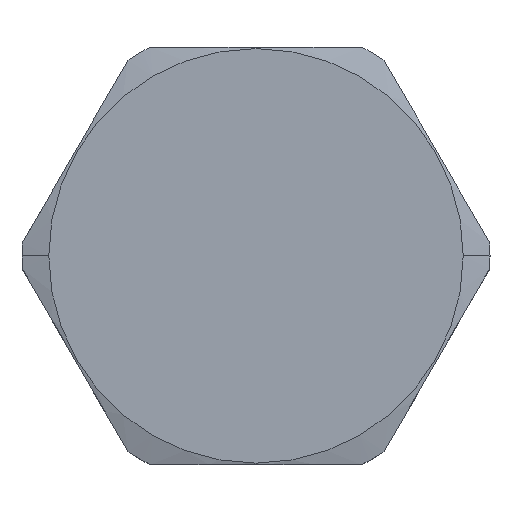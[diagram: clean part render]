
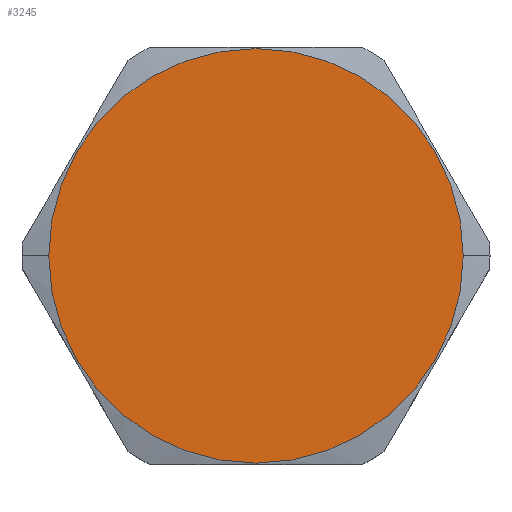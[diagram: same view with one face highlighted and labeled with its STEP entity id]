
A CAD part, top view. The second image highlights one B-rep face of the part: STEP entity #3245.
In plain terms, the highlighted planar face has unit normal (0, 0, 1).
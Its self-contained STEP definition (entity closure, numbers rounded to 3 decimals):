
#1237=CARTESIAN_POINT('',(0.,0.,9.449));
#1238=DIRECTION('',(0.,0.,-1.));
#1239=DIRECTION('',(-1.,0.,0.));
#1240=AXIS2_PLACEMENT_3D('',#1237,#1238,#1239);
#1242=CARTESIAN_POINT('',(0.,0.,9.449));
#1243=DIRECTION('',(0.,0.,-1.));
#1244=DIRECTION('',(1.,0.,0.));
#1245=AXIS2_PLACEMENT_3D('',#1242,#1243,#1244);
#1543=CARTESIAN_POINT('',(-11.811,0.,9.449));
#1544=VERTEX_POINT('',#1543);
#1545=CARTESIAN_POINT('',(11.811,0.,9.449));
#1546=VERTEX_POINT('',#1545);
#3236=CARTESIAN_POINT('',(0.,0.,9.449));
#3237=DIRECTION('',(0.,0.,-1.));
#3238=DIRECTION('',(-1.,0.,0.));
#3239=AXIS2_PLACEMENT_3D('',#3236,#3237,#3238);
#3240=PLANE('',#3239);
#3241=ORIENTED_EDGE('',*,*,#3222,.T.);
#3242=ORIENTED_EDGE('',*,*,#3086,.T.);
#3243=EDGE_LOOP('',(#3241,#3242));
#3244=FACE_OUTER_BOUND('',#3243,.F.);
#3245=ADVANCED_FACE('',(#3244),#3240,.F.);
#1241=CIRCLE('',#1240,11.811);
#1246=CIRCLE('',#1245,11.811);
#3086=EDGE_CURVE('',#1546,#1544,#1246,.T.);
#3222=EDGE_CURVE('',#1544,#1546,#1241,.T.);
